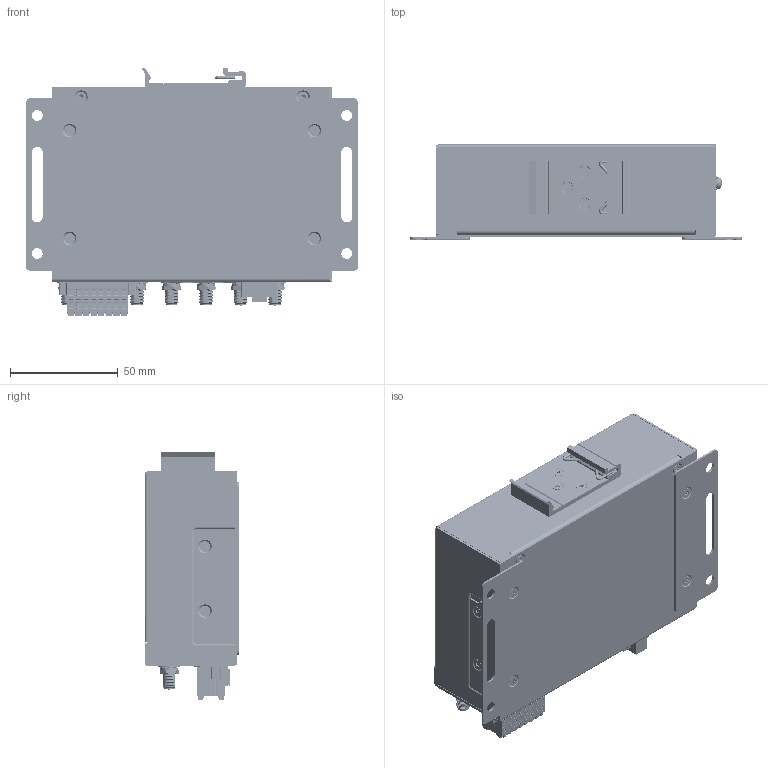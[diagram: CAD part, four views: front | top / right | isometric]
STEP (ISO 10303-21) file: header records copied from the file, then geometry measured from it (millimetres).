
FILE_DESCRIPTION (( 'STEP AP214' ), '1' );
FILE_NAME ('ICR-4272W.STEP', '2025-11-19T11:55:53', ( '' ), ( '' ), 'SwSTEP 2.0', 'SolidWorks 2024', '' );
FILE_SCHEMA (( 'AUTOMOTIVE_DESIGN' ));
Length unit declared in the file: millimetre
Products named in the file (54): SIM_holder; B-ICR41(2)xx-4_B-ICR42xxLS-4; Pluggable_Term_Blk_2P; Bottom_Base_for_ICR-4(1,2)xx; IO_Header_16P; SCR_BK_M3_L5_PH_FL_TW; Pin_header_6x2P; POST_D6xL4; SCR_ZC_M3_L10_PH_PW; Case_for_ICR-4(1,2)xx; WPEQ-268AXI; SCR_ZC_M2_L5_PH_P_M2x5; Micro_SD_card_holder_part_2; CON-ICR28-16; ChassisSimCover; Tact_Switch_right_angle; ICR-4272W; BAT_CR1225; SCR_ZC_M3_L6_PH_PW_2; DIN_25_AL; PAD_TH_W28_L14_H2,5; CON_WR2; ANT_PG_L200_R-SMA_UFL; V4I_ICR-41(2)XX_FIL_CDB; PCI_Female_Connector_52P; ChassisBottom; Lightpipe_4P; WAS_ZC_2_SR; Thermal_pad_46x30; Chassis_package-ICR-4(1,2)xx; POST_D4,5xL5; MOD_FN990A28-HP; CDS_M_H5_W7,3_CHM3; Label_42W2C4G1; PCI_Female_Connector_67P; Micro_SD_card_holder; Dip_Switch_2_positon; SCR_BK_M3_L5_PH_FL_TW_GLUE; Micro_SD_card_holder_part_1; chassisWallMount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
Assembly tree (75 placements, depth 5):
  ICR-4272W
    Chassis_package-ICR-4(1,2)xx
      Case_for_ICR-4(1,2)xx
        Bottom_Base_for_ICR-4(1,2)xx
          ChassisBottom
          CDS_M_H5_W7,3_CHM3  x4
        ChassisTop
      ChassisSimCover
      ThermalTape
      AlluminiumCooler
      chassisWallMount  x2
    B-ICR41(2)xx-4_B-ICR42xxLS-4
      PCB_ICR-4(1,2)xx
      PCI_Female_Connector_52P
      POST_D4,5xL5
      Battery_SMT_holder_Keystone-PN3000
      Lightpipe_4P  x2
      RJ45_2x_Connector
      USB_3_0_type_A
      IO_Header_16P
      POST_D6xL4
      PCI_Female_Connector_67P
      SIM_holder  x2
      Tact_Switch_right_angle
      Radial_THT_Capacitor
      Pluggable_Term_Blk_2P
      Micro_SD_card_holder
        Micro_SD_card_holder_part_1
        Micro_SD_card_holder_part_2
      Dip_Switch_2_positon
      Pin_header_6x2P
    WPEQ-268AXI
    MOD_FN990A28-HP
    BAT_CR1225
    Thermal_pad_46x30
    PAD_TH_W28_L14_H2,5  x2
    Label_42W2C4G1
    Label_SIM_SD_IO_configuration_SIM_IO
    ANT_PG_L200_R-SMA_UFL  x2
    ANT_PG_L150_SMA_I  x5
    CON_WR2
    CON-ICR28-16
    DIN_clip_set_ICR_series
      DIN_25_AL
      SCR_BK_M3_L5_PH_FL_TW_GLUE  x3
    SCR_ZC_M3_L6_PH_PW  x3
    SCR_ZC_M3_L10_PH_PW
    WAS_ZC_2_SR
    SCR_ZC_M2_L5_PH_P_M2x5
    SCR_BK_M3_L4_TX8_FL_SCR  x4
    SCR_BK_M3_L5_PH_FL_TW  x6
    SCR_ZC_M3_L6_PH_PW_2
  V4I_ICR-41(2)XX_FIL_CDB
  21BB-CLK3-000001
Bounding box: 153.9 x 44 x 115.39 mm (x, y, z)
Volume: 107457.8 mm3; surface area: 215040.7 mm2
Topology: 186 solids, 253 shells, 20074 faces, 54744 edges, 35850 vertices
Faces by surface type: plane 11053, cylinder 4247, bspline 3912, cone 539, torus 231, sphere 92
Entity records: 704830 total; most frequent: CARTESIAN_POINT 231328, ORIENTED_EDGE 95230, DIRECTION 73474, EDGE_CURVE 47812, VERTEX_POINT 31244, VECTOR 30404, LINE 30404, AXIS2_PLACEMENT_3D 21535
